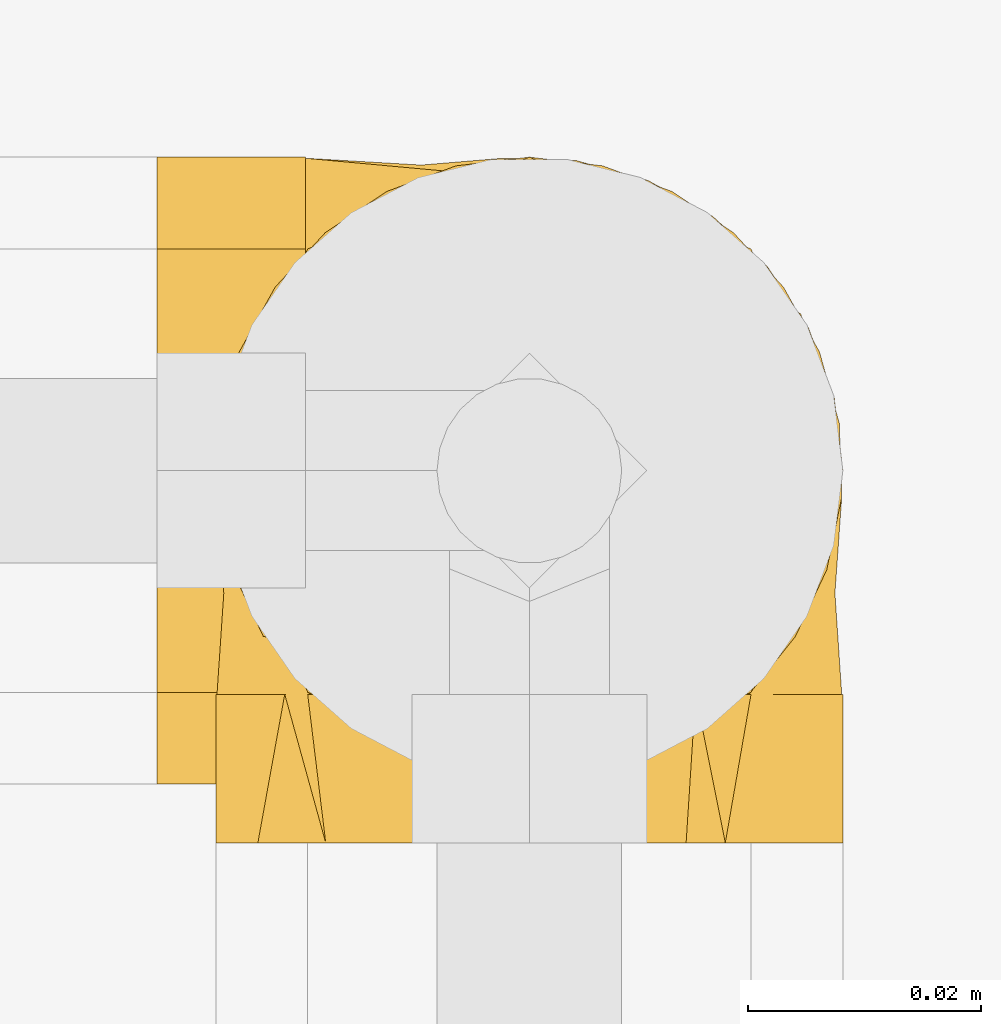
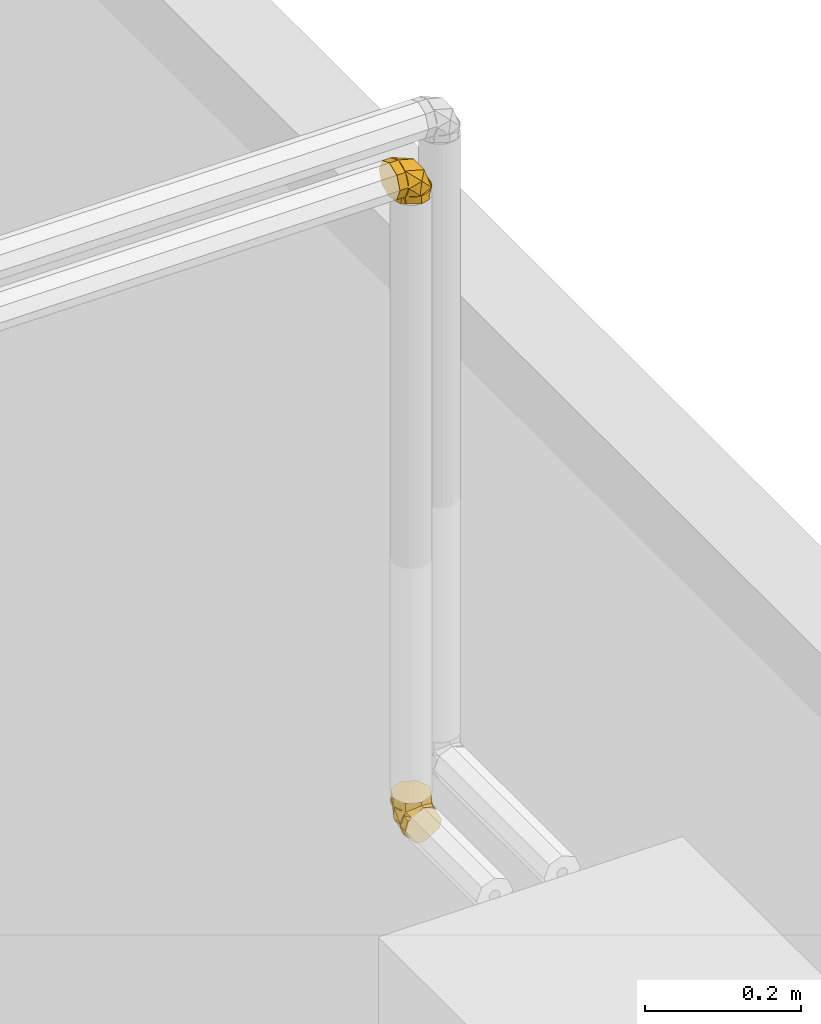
# One storey, part 359 of 652: 2 coverings.
"""IFC2X3 building model written with IfcOpenShell, lengths in millimetres."""

import ifcopenshell
import ifcopenshell.guid

model = None  # the IFC model being written
_history = None  # IfcOwnerHistory: only IFC2X3 demands one
_inside = {}  # id of a spatial element -> (the spatial element, [elements in it])
_under = {}  # id of a project, library or spatial element -> (it, [spatial elements below it])
_declared = {}  # id of a project -> (the project, [libraries it declares])
_typed = {}  # id of a type object -> (the type object, [elements of that type])
_made_of = {}  # id of a material, layer set ... -> (it, [elements and type objects made of it])


def new_model(schema):
    """Start an empty IFC model of exactly this schema.

    Asked for "IFC4X3", IfcOpenShell would pick the latest addendum, in which some entities
    have other attributes; the version numbers below select the first issue.
    IFC2X3 requires an IfcOwnerHistory on every rooted entity: one is made here for all.
    """
    global model, _history
    if schema == "IFC4X3":
        model = ifcopenshell.file(schema_version=(4, 3, 0, 0))
    else:
        model = ifcopenshell.file(schema=schema)
    _inside.clear()
    _under.clear()
    _declared.clear()
    _typed.clear()
    _made_of.clear()
    _history = None
    if model.schema == "IFC2X3":
        org = make("IfcOrganization", Name="unknown")
        user = make(
            "IfcPersonAndOrganization",
            ThePerson=make("IfcPerson", FamilyName="unknown"),
            TheOrganization=org,
        )
        app = make(
            "IfcApplication",
            ApplicationDeveloper=org,
            Version="unknown",
            ApplicationFullName="unknown",
            ApplicationIdentifier="unknown",
        )
        _history = make(
            "IfcOwnerHistory",
            OwningUser=user,
            OwningApplication=app,
            ChangeAction="ADDED",
            CreationDate=0,
        )
    return model


def make(cls, **values):
    """One entity of the class cls with the attributes given. An attribute that is None is left unset."""
    return model.create_entity(
        cls, **{name: value for name, value in values.items() if value is not None}
    )


def entity(cls, *values):
    """Any entity or typed value of the class cls, its attributes in the order of the schema. None: left unset."""
    e = model.create_entity(cls)
    for i, value in enumerate(values):
        if value is not None:
            e[i] = value
    return e


def rooted(cls, **values):
    """An entity with a GlobalId (a new one), such as an element, a storey or a relation."""
    return make(cls, GlobalId=ifcopenshell.guid.new(), OwnerHistory=_history, **values)


def si_unit(unit_type, name, prefix=None):
    """IfcSIUnit, for example si_unit("LENGTHUNIT", "METRE", prefix="MILLI")."""
    return make("IfcSIUnit", UnitType=unit_type, Prefix=prefix, Name=name)


def converted_unit(unit_type, name, factor, base, dimensions=None, offset=None):
    """IfcConversionBasedUnit, such as the inch: factor (a typed value) times the base unit."""
    return make(
        "IfcConversionBasedUnit"
        if offset is None
        else "IfcConversionBasedUnitWithOffset",
        ConversionOffset=offset,
        Dimensions=None
        if dimensions is None
        else entity("IfcDimensionalExponents", *dimensions),
        UnitType=unit_type,
        Name=name,
        ConversionFactor=make(
            "IfcMeasureWithUnit", ValueComponent=factor, UnitComponent=base
        ),
    )


def assignment(units):
    """IfcUnitAssignment: the units of a project."""
    return None if units is None else make("IfcUnitAssignment", Units=units)


def point(xyz):
    """IfcCartesianPoint."""
    return None if xyz is None else make("IfcCartesianPoint", Coordinates=xyz)


def direction(xyz):
    """IfcDirection."""
    return None if xyz is None else make("IfcDirection", DirectionRatios=xyz)


def frame(location, z_axis=None, x_axis=None):
    """IfcAxis2Placement3D, a coordinate frame: its origin and axes. An axis left out is left unset."""
    return make(
        "IfcAxis2Placement3D",
        Location=point(location),
        Axis=direction(z_axis),
        RefDirection=direction(x_axis),
    )


def origin():
    """The frame at (0, 0, 0) with its axes left unset."""
    return frame((0.0, 0.0, 0.0))


def place(relative_to, where):
    """IfcLocalPlacement: puts the frame where relative to a parent placement (None: the world)."""
    return make(
        "IfcLocalPlacement", PlacementRelTo=relative_to, RelativePlacement=where
    )


def context(
    kind, dimensions, precision=None, world=None, true_north=None, identifier=None
):
    """IfcGeometricRepresentationContext, for example the 3D "Model" context."""
    return make(
        "IfcGeometricRepresentationContext",
        ContextIdentifier=identifier,
        ContextType=kind,
        CoordinateSpaceDimension=dimensions,
        Precision=precision,
        WorldCoordinateSystem=world,
        TrueNorth=true_north,
    )


def subcontext(parent, identifier, kind, view, scale=None):
    """IfcGeometricRepresentationSubContext, for example "Body" below "Model"."""
    return make(
        "IfcGeometricRepresentationSubContext",
        ContextIdentifier=identifier,
        ContextType=kind,
        ParentContext=parent,
        TargetScale=scale,
        TargetView=view,
    )


def project(units=None, contexts=None):
    """IfcProject with its units and contexts."""
    return rooted(
        "IfcProject",
        Name="project",
        RepresentationContexts=contexts,
        UnitsInContext=assignment(units),
    )


def spatial(cls, under=None, at=None, **own):
    """A site, building, storey or space (cls), placed at a placement, below another one or the project."""
    s = rooted(cls, ObjectPlacement=at, **own)
    if under is not None:
        _under.setdefault(under.id(), (under, []))[1].append(s)
    return s


def faces_of(points, faces, orient=None, outer=None):
    """IfcFace entities. A face is a list of loops; a loop is a list of indices into points, from 0.

    orient and outer hold one flag for each loop. By default every Orientation is true, the
    first loop of a face is its IfcFaceOuterBound and the others are IfcFaceBound.
    """
    made = []
    for i, loops in enumerate(faces):
        bounds = []
        for j, loop in enumerate(loops):
            is_outer = j == 0 if outer is None else outer[i][j]
            bounds.append(
                make(
                    "IfcFaceOuterBound" if is_outer else "IfcFaceBound",
                    Bound=make("IfcPolyLoop", Polygon=[points[k] for k in loop]),
                    Orientation=True if orient is None else orient[i][j],
                )
            )
        made.append(make("IfcFace", Bounds=bounds))
    return made


def face_set(faces, orient=None, outer=None):
    """The faces of one IfcConnectedFaceSet. surface_model builds it on its shared points."""
    return ("IfcConnectedFaceSet", faces, orient, outer)


def surface_model(cls, points, shells):
    """IfcFaceBasedSurfaceModel or IfcShellBasedSurfaceModel (cls): surfaces that need not close."""
    shared = [point(p) for p in points]
    made = [make(c, CfsFaces=faces_of(shared, fs, o, b)) for c, fs, o, b in shells]
    if cls == "IfcFaceBasedSurfaceModel":
        return make(cls, FbsmFaces=made)
    return make(cls, SbsmBoundary=made)


def shape(context_of_items, identifier, shape_type, items):
    """IfcShapeRepresentation: the items that make up one representation, for example the "Body"."""
    return make(
        "IfcShapeRepresentation",
        ContextOfItems=context_of_items,
        RepresentationIdentifier=identifier,
        RepresentationType=shape_type,
        Items=items,
    )


def material(Name=None, Category=None):
    """IfcMaterial."""
    return make("IfcMaterial", Name=Name, Category=Category)


def made_of(thing, what):
    """Note that an element or type object is made of a material, layer set ...; save() writes the relation."""
    if what is not None:
        _made_of.setdefault(what.id(), (what, []))[1].append(thing)
    return thing


def type_object(cls, material=None, **own):
    """A type object (cls), such as IfcWallType, which elements share."""
    return made_of(rooted(cls, **own), material)


def element(
    cls,
    number,
    at=None,
    inside=None,
    cuts=None,
    type_object=None,
    material=None,
    context=None,
    identifier="Body",
    shape_type=None,
    held_by="IfcProductDefinitionShape",
    body=None,
    shapes=None,
    **own,
):
    """One element of the class cls, such as IfcWall. Its Tag is "e" and its number.

    at: its placement. inside: the storey or other place that contains it. cuts: it is an
    opening in that element (IfcRelVoidsElement). A single representation is given by context,
    identifier, shape_type and body (its items); several are given by shapes. held_by: the class
    of the entity that holds the representations. save() writes the other relations.
    """
    e = rooted(cls, Tag="e%d" % number, ObjectPlacement=at, **own)
    if body is not None:
        shapes = [shape(context, identifier, shape_type, body)]
    if shapes is not None:
        e.Representation = make(held_by, Representations=shapes)
    if inside is not None:
        _inside.setdefault(inside.id(), (inside, []))[1].append(e)
    if cuts is not None:
        rooted(
            "IfcRelVoidsElement", RelatingBuildingElement=cuts, RelatedOpeningElement=e
        )
    if type_object is not None:
        _typed.setdefault(type_object.id(), (type_object, []))[1].append(e)
    return made_of(e, material)


def aggregate(whole, parts):
    """IfcRelAggregates: a whole, such as a stair, and the parts it consists of."""
    return rooted("IfcRelAggregates", RelatingObject=whole, RelatedObjects=parts)


def save(model, path):
    """Write the relations noted so far, then the file.

    IfcRelAggregates (storeys below a building ...), IfcRelContainedInSpatialStructure (elements
    in a storey), IfcRelDefinesByType, IfcRelAssociatesMaterial and IfcRelDeclares: one each for
    every whole, place, type object, material and project.
    """
    for whole, parts in _under.values():
        aggregate(whole, parts)
    for where, things in _inside.values():
        rooted(
            "IfcRelContainedInSpatialStructure",
            RelatedElements=things,
            RelatingStructure=where,
        )
    for kind, things in _typed.values():
        rooted("IfcRelDefinesByType", RelatedObjects=things, RelatingType=kind)
    for what, things in _made_of.values():
        rooted("IfcRelAssociatesMaterial", RelatedObjects=things, RelatingMaterial=what)
    for by, libraries in _declared.values():
        rooted("IfcRelDeclares", RelatingContext=by, RelatedDefinitions=libraries)
    model.write(path)


model = new_model("IFC2X3")

# Units and contexts
model_context = context("Model", 3, precision=0.01, world=frame((0.0, 0.0, 308426.39999999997)), true_north=direction((6.123233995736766e-17, 1.0)))
plan_context = context("Plan", 3, precision=0.01, world=frame((0.0, 0.0, 308426.39999999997)), true_north=direction((6.123233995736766e-17, 1.0)))
body_context = subcontext(model_context, "Body", "Model", "MODEL_VIEW")
ifc_project = project(units=[si_unit("LENGTHUNIT", "METRE", prefix="MILLI"), si_unit("AREAUNIT", "SQUARE_METRE"), si_unit("VOLUMEUNIT", "CUBIC_METRE"), converted_unit("PLANEANGLEUNIT", "DEGREE", entity("IfcPlaneAngleMeasure", 0.017453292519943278), si_unit("PLANEANGLEUNIT", "RADIAN"), dimensions=[0, 0, 0, 0, 0, 0, 0])], contexts=[model_context, plan_context])

# Site, building, storey
site_placement = place(None, origin())
site = spatial("IfcSite", under=ifc_project, at=site_placement, Name="Default", CompositionType="ELEMENT")
building_placement = place(site_placement, origin())
building = spatial("IfcBuilding", under=site, at=building_placement, CompositionType="ELEMENT")
storey_placement = place(building_placement, frame((0.0, 0.0, 1730.6999999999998)))
storey = spatial("IfcBuildingStorey", under=building, at=storey_placement, Name="EG_Produktion_FFB", CompositionType="ELEMENT", Elevation=1730.6999999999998)

# Coverings
ifc_material = material(Name="Dämmung - Armaflex-Schlauch")
covering_type = type_object("IfcCoveringType", Name="Rohrdämmung außen:Armaflex-Schlauch", PredefinedType="INSULATION")
covering_1_placement = place(storey_placement, frame((66193.50701735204, 34921.46567746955, 3728.532772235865)))
element("IfcCovering", 1, at=covering_1_placement, inside=storey, type_object=covering_type, material=ifc_material, Name="Rohrdämmung außen:Armaflex-Schlauch", ObjectType="Rohrdämmung außen:Armaflex-Schlauch", PredefinedType="INSULATION", context=body_context, shape_type="SurfaceModel", body=[
    surface_model("IfcFaceBasedSurfaceModel", [(12.766250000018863, 9.65642195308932, -47.75027223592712), (12.766250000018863, 5.678961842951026, -42.79223424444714), (12.766250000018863, 2.973980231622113, -37.040242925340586), (12.766250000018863, 1.6920879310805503, -30.814563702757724), (12.766250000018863, 1.9046594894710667, -24.461836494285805), (12.766250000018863, 3.5998591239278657, -18.335775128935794), (12.766250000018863, 6.683299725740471, -12.77747289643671), (12.766250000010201, 10.983298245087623, -8.096410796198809), (12.766250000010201, 16.26043484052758, -4.553225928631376), (12.766250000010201, 22.220883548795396, -2.3451994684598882), (12.766250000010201, 28.532772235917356, -1.595272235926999), (12.766250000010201, 34.84466092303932, -2.3451994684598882), (12.766250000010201, 40.80510963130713, -4.553225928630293), (12.766250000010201, 46.08224622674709, -8.096410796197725), (12.766250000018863, 50.38224474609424, -12.77747289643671), (12.766250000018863, 53.46568534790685, -18.33577512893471), (12.766250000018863, 55.16088498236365, -24.461836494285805), (12.766250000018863, 55.37345654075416, -30.814563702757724), (12.766250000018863, 54.0915642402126, -37.040242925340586), (12.766250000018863, 51.38658262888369, -42.79223424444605), (12.766250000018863, 47.40912251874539, -47.75027223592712), (17.72428799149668, 51.38658262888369, -47.75027223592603), (23.47627931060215, 54.0915642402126, -47.75027223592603), (29.70195853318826, 55.37345654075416, -47.75027223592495), (36.05468574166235, 55.16088498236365, -47.75027223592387), (42.18074710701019, 53.46568534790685, -47.75027223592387), (47.73904933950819, 50.38224474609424, -47.750272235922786), (52.42011143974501, 46.08224622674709, -47.750272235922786), (55.96329630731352, 40.80510963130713, -47.750272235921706), (58.17132276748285, 34.84466092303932, -47.750272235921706), (58.921250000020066, 28.532772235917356, -47.750272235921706), (58.17132276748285, 22.220883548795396, -47.750272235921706), (55.96329630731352, 16.26043484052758, -47.750272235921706), (52.42011143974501, 10.983298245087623, -47.750272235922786), (47.73904933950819, 6.683299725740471, -47.750272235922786), (42.18074710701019, 3.5998591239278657, -47.75027223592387), (36.05468574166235, 1.9046594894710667, -47.75027223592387), (29.70195853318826, 1.6920879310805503, -47.75027223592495), (23.47627931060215, 2.973980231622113, -47.75027223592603), (17.72428799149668, 5.678961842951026, -47.75027223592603), (22.70703294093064, 2.2770349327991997, -39.06942689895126), (35.84576585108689, 28.533571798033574, -7.778894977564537), (12.76810471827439, 6.33725221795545, -19.455507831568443), (33.56683518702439, 3.6002099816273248, -26.9509805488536), (43.184852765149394, 14.2856042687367, -18.674741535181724), (48.37523362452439, 28.533571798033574, -29.486290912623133), (41.05940110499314, 6.33725221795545, -47.750292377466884), (43.184852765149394, 42.779213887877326, -18.674741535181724), (33.56683518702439, 53.4646081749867, -26.9509805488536), (22.70703294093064, 54.79010866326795, -39.06942689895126), (41.05940110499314, 50.72756593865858, -47.750292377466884), (12.76810471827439, 50.72756593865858, -19.455507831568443), (0.0, 28.532772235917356, -1.5952722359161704), (0.0, 33.2946944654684, -3.567725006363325), (0.0, 38.05661669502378, -5.540177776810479), (0.0, 42.81853892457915, -7.51263054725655), (0.0, 47.5804611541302, -9.485083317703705), (0.0, 49.552913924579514, -14.247005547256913), (0.0, 51.5253666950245, -19.008927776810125), (0.0, 53.49781946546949, -23.770850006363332), (0.0, 55.47027223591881, -28.532772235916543), (0.0, 53.49781946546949, -33.29469446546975), (0.0, 51.5253666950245, -38.05661669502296), (0.0, 49.552913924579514, -42.818538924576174), (0.0, 47.5804611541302, -47.58046115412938), (0.0, 42.81853892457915, -49.552913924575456), (0.0, 38.05661669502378, -51.52536669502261), (0.0, 33.2946944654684, -53.49781946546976), (0.0, 28.532772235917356, -55.470272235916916), (0.0, 23.770850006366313, -53.49781946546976), (0.0, 19.008927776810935, -51.52536669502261), (0.0, 14.247005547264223, -49.552913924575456), (0.0, 9.485083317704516, -47.58046115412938), (0.0, 7.512630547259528, -42.818538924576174), (0.0, 5.540177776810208, -38.05661669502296), (0.0, 3.567725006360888, -33.29469446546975), (0.0, 1.5952722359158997, -28.532772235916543), (0.0, 3.5677250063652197, -23.770850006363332), (0.0, 5.540177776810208, -19.008927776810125), (0.0, 7.512630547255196, -14.247005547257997), (0.0, 9.485083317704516, -9.485083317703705), (0.0, 14.24700554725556, -7.51263054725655), (0.0, 19.008927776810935, -5.540177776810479), (0.0, 23.770850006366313, -3.567725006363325), (12.766250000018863, 28.532772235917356, -1.5952722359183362), (12.766250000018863, 23.770850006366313, -3.567725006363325), (12.766250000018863, 19.008927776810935, -5.540177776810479), (12.766250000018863, 14.24700554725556, -7.512630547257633), (12.766250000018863, 9.485083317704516, -9.48508331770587), (12.766250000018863, 7.095738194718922, -15.25347271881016), (12.766250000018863, 4.706393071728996, -21.021862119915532), (12.766250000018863, 1.5952722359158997, -28.53277223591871), (12.766250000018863, 3.567725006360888, -33.29469446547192), (12.766250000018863, 5.540177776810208, -38.05661669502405), (12.766250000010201, 7.512630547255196, -42.818538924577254), (12.766250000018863, 9.485083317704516, -47.58046115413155), (12.766250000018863, 15.253472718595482, -49.96980627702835), (12.766250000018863, 21.021862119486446, -52.35915139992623), (12.766250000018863, 28.532772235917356, -55.47027223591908), (12.766250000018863, 33.29469446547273, -53.49781946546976), (12.766250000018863, 38.05661669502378, -51.52536669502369), (12.766250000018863, 42.81853892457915, -49.552913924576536), (12.766250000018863, 47.5804611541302, -47.58046115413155), (12.766250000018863, 49.96980627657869, -41.81207175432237), (12.766250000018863, 52.35915139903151, -36.04368235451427), (12.766250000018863, 55.47027223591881, -28.53277223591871), (12.766250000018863, 53.49781946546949, -23.7708500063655), (12.766250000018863, 51.5253666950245, -19.008927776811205), (12.766250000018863, 49.552913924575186, -14.247005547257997), (12.766250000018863, 47.5804611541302, -9.48508331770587), (12.766250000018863, 41.81207177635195, -7.095738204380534), (12.766250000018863, 36.0436823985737, -4.706393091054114), (58.92125000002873, 28.532772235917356, -60.51652223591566), (55.55406250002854, 22.700632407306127, -60.51652223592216), (52.186875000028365, 16.868492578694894, -60.51652223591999), (48.81968750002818, 11.036352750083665, -60.516522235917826), (45.452500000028, 5.204212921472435, -60.51652223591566), (38.718125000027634, 3.3997425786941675, -60.51652223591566), (31.98375000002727, 1.5952722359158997, -60.51652223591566), (26.151610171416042, 4.962459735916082, -60.51652223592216), (20.319470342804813, 8.329647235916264, -60.51652223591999), (14.487330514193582, 11.696834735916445, -60.516522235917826), (8.655190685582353, 15.064022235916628, -60.51652223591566), (6.850720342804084, 21.79839723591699, -60.51652223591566), (5.046250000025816, 28.532772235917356, -60.51652223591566), (8.41343750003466, 34.36491206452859, -60.51652223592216), (11.78062500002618, 40.197051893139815, -60.51652223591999), (15.147812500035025, 46.02919172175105, -60.516522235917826), (18.515000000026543, 51.86133155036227, -60.51652223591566), (25.24937500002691, 53.66580189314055, -60.51652223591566), (31.98375000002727, 55.47027223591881, -60.51652223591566), (37.815889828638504, 52.10308473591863, -60.51652223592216), (43.64802965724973, 48.73589723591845, -60.51652223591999), (49.480169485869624, 45.368709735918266, -60.516522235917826), (55.312309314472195, 42.00152223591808, -60.51652223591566), (57.11677965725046, 35.26714723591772, -60.51652223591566), (58.92125000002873, 28.532772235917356, -47.75027223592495), (56.94879722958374, 33.29469446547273, -47.75027223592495), (54.97634445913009, 38.05661669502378, -47.75027223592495), (53.0038916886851, 42.81853892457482, -47.75027223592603), (51.03143891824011, 47.5804611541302, -47.75027223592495), (46.26951668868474, 49.552913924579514, -47.75027223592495), (41.50759445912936, 51.5253666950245, -47.75027223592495), (36.745672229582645, 53.49781946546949, -47.75027223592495), (31.98375000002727, 55.47027223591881, -47.75027223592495), (27.22182777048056, 53.49781946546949, -47.75027223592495), (22.459905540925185, 51.5253666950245, -47.75027223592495), (17.697983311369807, 49.552913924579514, -47.75027223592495), (12.936061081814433, 47.5804611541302, -47.75027223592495), (10.963608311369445, 42.81853892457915, -47.75027223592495), (8.991155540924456, 38.05661669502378, -47.75027223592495), (7.018702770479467, 33.2946944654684, -47.75027223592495), (5.046250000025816, 28.532772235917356, -47.75027223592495), (7.018702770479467, 23.770850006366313, -47.75027223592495), (8.991155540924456, 19.008927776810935, -47.75027223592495), (10.963608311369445, 14.24700554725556, -47.75027223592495), (12.936061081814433, 9.485083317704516, -47.75027223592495), (17.697983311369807, 7.512630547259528, -47.75027223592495), (22.459905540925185, 5.540177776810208, -47.75027223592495), (27.221827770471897, 3.5677250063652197, -47.75027223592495), (31.98375000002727, 1.5952722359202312, -47.75027223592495), (36.745672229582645, 3.567725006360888, -47.75027223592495), (41.50759445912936, 5.540177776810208, -47.75027223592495), (46.26951668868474, 7.512630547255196, -47.75027223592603), (51.03143891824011, 9.485083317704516, -47.75027223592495), (53.0038916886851, 14.24700554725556, -47.75027223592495), (54.97634445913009, 19.008927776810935, -47.75027223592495), (56.94879722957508, 23.770850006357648, -47.75027223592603)], [face_set([[[0, 1, 2, 3, 4, 5, 6, 7, 8, 9, 10, 11, 12, 13, 14, 15, 16, 17, 18, 19]], [[20, 21, 22, 23, 24, 25, 26, 27, 28, 29, 30, 31, 32, 33, 34, 35, 36, 37, 38, 39]], [[0, 40, 3]], [[10, 7, 41]], [[42, 3, 43, 7]], [[40, 43, 3]], [[37, 40, 0]], [[7, 43, 44]], [[45, 41, 44]], [[7, 44, 41]], [[33, 30, 45]], [[45, 44, 33]], [[43, 33, 44]], [[43, 37, 46]], [[37, 43, 40]], [[46, 33, 43]], [[13, 10, 41]], [[27, 47, 45]], [[45, 30, 27]], [[48, 47, 27]], [[49, 48, 23]], [[48, 50, 23]], [[45, 47, 41]], [[20, 49, 23]], [[47, 48, 13]], [[17, 49, 20]], [[41, 47, 13]], [[48, 17, 51, 13]], [[48, 27, 50]], [[17, 48, 49]]]), face_set([[[52, 53, 54, 55, 56, 57, 58, 59, 60, 61, 62, 63, 64, 65, 66, 67, 68, 69, 70, 71, 72, 73, 74, 75, 76, 77, 78, 79, 80, 81, 82, 83]], [[84, 85, 86, 87, 88, 89, 90, 91, 92, 93, 94, 95, 96, 97, 98, 99, 100, 101, 102, 103, 104, 105, 106, 107, 108, 109, 110, 111]], [[111, 110, 109, 56, 55, 54, 53, 52, 84]], [[56, 109, 108, 107, 106, 105, 60, 59, 58, 57]], [[104, 103, 102, 64, 63, 62, 61, 60, 105]], [[64, 102, 101, 100, 99, 98, 68, 67, 66, 65]], [[97, 96, 95, 72, 71, 70, 69, 68, 98]], [[72, 95, 94, 93, 92, 91, 76, 75, 74, 73]], [[90, 89, 88, 80, 79, 78, 77, 76, 91]], [[80, 88, 87, 86, 85, 84, 52, 83, 82, 81]]]), face_set([[[112, 113, 114, 115, 116, 117, 118, 119, 120, 121, 122, 123, 124, 125, 126, 127, 128, 129, 130, 131, 132, 133, 134, 135]], [[136, 137, 138, 139, 140, 141, 142, 143, 144, 145, 146, 147, 148, 149, 150, 151, 152, 153, 154, 155, 156, 157, 158, 159, 160, 161, 162, 163, 164, 165, 166, 167]], [[155, 121, 156]], [[118, 159, 119]], [[159, 158, 119]], [[123, 154, 153]], [[153, 152, 124]], [[121, 155, 122]], [[120, 158, 157]], [[118, 160, 159]], [[158, 120, 119]], [[124, 123, 153]], [[157, 156, 121]], [[155, 154, 122]], [[123, 122, 154]], [[120, 157, 121]], [[163, 115, 164]], [[112, 167, 113]], [[167, 166, 113]], [[117, 162, 161]], [[161, 160, 118]], [[115, 163, 116]], [[114, 166, 165]], [[112, 136, 167]], [[166, 114, 113]], [[118, 117, 161]], [[165, 164, 115]], [[163, 162, 116]], [[117, 116, 162]], [[114, 165, 115]], [[139, 133, 140]], [[130, 143, 131]], [[143, 142, 131]], [[135, 138, 137]], [[137, 136, 112]], [[133, 139, 134]], [[132, 142, 141]], [[130, 144, 143]], [[142, 132, 131]], [[112, 135, 137]], [[141, 140, 133]], [[139, 138, 134]], [[135, 134, 138]], [[132, 141, 133]], [[147, 127, 148]], [[124, 151, 125]], [[151, 150, 125]], [[129, 146, 145]], [[145, 144, 130]], [[127, 147, 128]], [[126, 150, 149]], [[124, 152, 151]], [[150, 126, 125]], [[130, 129, 145]], [[149, 148, 127]], [[147, 146, 128]], [[129, 128, 146]], [[126, 149, 127]]])]),
])
covering_2_placement = place(storey_placement, frame((66196.95799511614, 34918.014699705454, 2671.4672277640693)))
element("IfcCovering", 2, at=covering_2_placement, inside=storey, type_object=covering_type, material=ifc_material, Name="Rohrdämmung außen:Armaflex-Schlauch", ObjectType="Rohrdämmung außen:Armaflex-Schlauch", PredefinedType="INSULATION", context=body_context, shape_type="SurfaceModel", body=[
    surface_model("IfcFaceBasedSurfaceModel", [(47.409122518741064, 12.766250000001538, 47.750272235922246), (51.38658262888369, 17.72428799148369, 47.750272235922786), (54.0915642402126, 23.476279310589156, 47.750272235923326), (55.37345654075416, 29.701958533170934, 47.75027223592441), (55.16088498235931, 36.05468574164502, 47.75027223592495), (53.465685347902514, 42.18074710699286, 47.75027223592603), (50.38224474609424, 47.73904933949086, 47.75027223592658), (46.08224622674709, 52.42011143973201, 47.75027223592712), (40.8051096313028, 55.9632963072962, 47.75027223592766), (34.844660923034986, 58.17132276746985, 47.75027223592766), (28.532772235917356, 58.92125000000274, 47.75027223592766), (22.220883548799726, 58.17132276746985, 47.75027223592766), (16.26043484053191, 55.9632963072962, 47.75027223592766), (10.983298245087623, 52.42011143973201, 47.75027223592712), (6.683299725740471, 47.73904933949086, 47.75027223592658), (3.599859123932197, 42.18074710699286, 47.75027223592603), (1.904659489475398, 36.05468574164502, 47.75027223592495), (1.6920879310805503, 29.701958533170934, 47.75027223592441), (2.973980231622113, 23.476279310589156, 47.750272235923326), (5.678961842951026, 17.72428799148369, 47.750272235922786), (9.65642195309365, 12.766250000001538, 47.750272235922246), (5.678961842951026, 12.766250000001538, 42.79223424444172), (2.973980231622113, 12.766250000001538, 37.04024292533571), (1.6920879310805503, 12.766250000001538, 30.81456370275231), (1.904659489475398, 12.766250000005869, 24.46183649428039), (3.599859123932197, 12.766250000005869, 18.33577512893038), (6.683299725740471, 12.766250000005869, 12.777472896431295), (10.983298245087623, 12.766250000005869, 8.096410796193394), (16.26043484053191, 12.766250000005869, 4.553225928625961), (22.220883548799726, 12.766250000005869, 2.3451994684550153), (28.532772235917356, 12.766250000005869, 1.5952722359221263), (34.844660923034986, 12.766250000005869, 2.3451994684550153), (40.8051096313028, 12.766250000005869, 4.553225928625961), (46.08224622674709, 12.766250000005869, 8.096410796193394), (50.38224474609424, 12.766250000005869, 12.777472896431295), (53.465685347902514, 12.766250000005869, 18.33577512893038), (55.16088498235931, 12.766250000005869, 24.46183649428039), (55.37345654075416, 12.766250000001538, 30.81456370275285), (54.0915642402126, 12.766250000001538, 37.04024292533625), (51.38658262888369, 12.766250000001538, 42.79223424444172), (54.788770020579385, 21.447983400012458, 37.80740068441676), (28.53455859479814, 52.736771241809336, 24.672737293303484), (53.46792041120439, 33.565848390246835, 26.9510865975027), (50.728552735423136, 41.06073974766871, 47.750398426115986), (28.53455859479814, 31.02879394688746, 12.139781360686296), (42.78020068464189, 41.84208740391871, 17.33248765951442), (50.728552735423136, 12.767117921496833, 19.45561388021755), (14.284265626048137, 41.84208740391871, 17.33248765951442), (3.6011967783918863, 33.565848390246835, 26.9510865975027), (2.2756962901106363, 21.447983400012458, 37.80740068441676), (6.335913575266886, 12.767117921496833, 19.45561388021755), (6.335913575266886, 41.06073974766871, 47.750398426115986), (28.532772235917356, 58.92125000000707, 60.5165222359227), (23.77085000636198, 56.948797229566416, 60.51652223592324), (19.008927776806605, 54.976344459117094, 60.51652223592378), (14.247005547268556, 53.00389168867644, 60.51652223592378), (9.485083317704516, 51.03143891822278, 60.51652223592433), (7.512630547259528, 46.26951668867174, 60.51652223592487), (5.540177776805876, 41.50759445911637, 60.51652223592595), (3.567725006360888, 36.74567222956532, 60.51652223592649), (1.5952722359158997, 31.983750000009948, 60.516522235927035), (3.567725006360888, 27.2218277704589, 60.516522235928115), (5.540177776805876, 22.459905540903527, 60.516522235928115), (7.512630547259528, 17.697983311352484, 60.516522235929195), (9.485083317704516, 12.936061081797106, 60.51652223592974), (14.247005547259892, 10.963608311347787, 60.51652223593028), (19.008927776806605, 8.991155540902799, 60.51652223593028), (23.77085000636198, 7.018702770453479, 60.51652223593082), (28.532772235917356, 5.046250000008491, 60.51652223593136), (33.29469446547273, 7.01870277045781, 60.51652223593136), (38.056616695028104, 8.991155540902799, 60.51652223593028), (42.818538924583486, 10.963608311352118, 60.51652223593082), (47.5804611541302, 12.936061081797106, 60.51652223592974), (49.552913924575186, 17.69798331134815, 60.516522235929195), (51.525366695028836, 22.459905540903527, 60.516522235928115), (53.497819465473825, 27.22182777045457, 60.516522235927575), (55.47027223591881, 31.983750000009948, 60.516522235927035), (53.497819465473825, 36.74567222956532, 60.51652223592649), (51.525366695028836, 41.50759445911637, 60.51652223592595), (49.552913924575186, 46.26951668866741, 60.51652223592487), (47.5804611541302, 51.03143891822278, 60.51652223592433), (42.818538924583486, 53.003891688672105, 60.51652223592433), (38.056616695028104, 54.976344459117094, 60.51652223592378), (33.29469446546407, 56.94879722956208, 60.5165222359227), (28.532772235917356, 58.92125000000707, 47.75027223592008), (33.29469446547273, 56.948797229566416, 47.750272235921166), (38.056616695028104, 54.976344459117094, 47.750272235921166), (42.81853892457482, 53.00389168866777, 47.750272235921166), (47.5804611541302, 51.03143891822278, 47.750272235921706), (49.96980627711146, 45.26304951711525, 47.750272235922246), (52.35915140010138, 39.49466011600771, 47.750272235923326), (55.47027223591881, 31.983750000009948, 47.75027223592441), (53.497819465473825, 27.22182777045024, 47.75027223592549), (51.525366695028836, 22.459905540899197, 47.75027223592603), (49.552913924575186, 17.69798331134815, 47.75027223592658), (47.5804611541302, 12.936061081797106, 47.75027223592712), (41.81207175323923, 10.546715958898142, 47.7502722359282), (36.04368235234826, 8.157370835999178, 47.7502722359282), (28.532772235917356, 5.046250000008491, 47.75027223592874), (23.77085000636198, 7.018702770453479, 47.75027223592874), (19.008927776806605, 8.991155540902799, 47.7502722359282), (14.247005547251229, 10.963608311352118, 47.75027223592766), (9.485083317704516, 12.936061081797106, 47.75027223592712), (7.095738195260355, 18.704450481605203, 47.75027223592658), (4.706393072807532, 24.472839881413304, 47.75027223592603), (1.5952722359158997, 31.983750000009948, 47.75027223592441), (3.567725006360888, 36.74567222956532, 47.75027223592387), (5.540177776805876, 41.50759445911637, 47.750272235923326), (7.512630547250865, 46.26951668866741, 47.750272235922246), (9.485083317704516, 51.03143891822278, 47.750272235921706), (15.253472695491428, 53.4207840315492, 47.750272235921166), (21.021862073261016, 55.810129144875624, 47.750272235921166), (28.532772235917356, 0.0, 1.5952722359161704), (34.36491206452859, 0.0, 4.962459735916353), (40.197051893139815, 0.0, 8.329647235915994), (46.02919172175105, 0.0, 11.696834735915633), (51.86133155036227, 0.0, 15.064022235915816), (53.66580189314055, 0.0, 21.798397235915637), (55.47027223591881, 0.0, 28.532772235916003), (52.10308473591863, 0.0, 34.36491206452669), (48.73589723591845, 0.0, 40.19705189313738), (45.368709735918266, 0.0, 46.02919172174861), (42.00152223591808, 0.0, 51.861331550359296), (35.26714723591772, 0.0, 53.66580189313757), (28.532772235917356, 0.0, 55.470272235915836), (22.700632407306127, 0.0, 52.10308473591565), (16.868492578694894, 0.0, 48.73589723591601), (11.036352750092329, 0.0, 45.36870973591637), (5.204212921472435, 0.0, 42.00152223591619), (3.3997425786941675, 0.0, 35.26714723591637), (1.5952722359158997, 0.0, 28.532772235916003), (4.962459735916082, 0.0, 22.700632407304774), (8.329647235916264, 0.0, 16.868492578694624), (11.696834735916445, 0.0, 11.036352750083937), (15.064022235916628, 0.0, 5.204212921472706), (21.79839723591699, 0.0, 3.3997425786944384), (28.532772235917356, 12.766250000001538, 1.5952722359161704), (23.77085000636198, 12.766250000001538, 3.567725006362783), (19.008927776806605, 12.766250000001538, 5.540177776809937), (14.247005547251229, 12.766250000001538, 7.512630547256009), (9.485083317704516, 12.766250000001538, 9.485083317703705), (7.512630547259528, 12.766250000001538, 14.247005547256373), (5.540177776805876, 12.766250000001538, 19.008927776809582), (3.567725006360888, 12.766250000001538, 23.770850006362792), (1.5952722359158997, 12.766250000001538, 28.532772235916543), (3.567725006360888, 12.766250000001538, 33.29469446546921), (5.540177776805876, 12.766250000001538, 38.05661669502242), (7.512630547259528, 12.766250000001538, 42.818538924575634), (9.485083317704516, 12.766250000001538, 47.58046115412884), (14.247005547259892, 12.766250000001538, 49.552913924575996), (19.008927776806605, 12.766250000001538, 51.525366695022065), (23.77085000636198, 12.766250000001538, 53.49781946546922), (28.532772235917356, 12.766250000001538, 55.470272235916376), (33.29469446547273, 12.766250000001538, 53.49781946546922), (38.056616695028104, 12.766250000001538, 51.525366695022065), (42.818538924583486, 12.766250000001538, 49.552913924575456), (47.5804611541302, 12.766250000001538, 47.58046115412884), (49.552913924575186, 12.766250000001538, 42.818538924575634), (51.525366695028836, 12.766250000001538, 38.05661669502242), (53.497819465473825, 12.766250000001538, 33.29469446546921), (55.47027223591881, 12.766250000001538, 28.532772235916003), (53.497819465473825, 12.766250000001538, 23.770850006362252), (51.525366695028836, 12.766250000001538, 19.008927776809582), (49.552913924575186, 12.766250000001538, 14.247005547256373), (47.5804611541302, 12.766250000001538, 9.485083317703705), (42.818538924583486, 12.766250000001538, 7.51263054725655), (38.056616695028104, 12.766250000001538, 5.540177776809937), (33.29469446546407, 12.766250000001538, 3.567725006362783)], [face_set([[[0, 1, 2, 3, 4, 5, 6, 7, 8, 9, 10, 11, 12, 13, 14, 15, 16, 17, 18, 19]], [[20, 21, 22, 23, 24, 25, 26, 27, 28, 29, 30, 31, 32, 33, 34, 35, 36, 37, 38, 39]], [[0, 40, 3]], [[10, 7, 41]], [[37, 42, 40]], [[42, 7, 43, 3]], [[37, 40, 0]], [[3, 40, 42]], [[44, 41, 45]], [[7, 45, 41]], [[33, 30, 44]], [[44, 45, 33]], [[42, 33, 45]], [[42, 37, 46]], [[7, 42, 45]], [[46, 33, 42]], [[13, 10, 41]], [[27, 47, 44]], [[44, 30, 27]], [[48, 47, 27]], [[49, 48, 23]], [[48, 50, 23]], [[44, 47, 41]], [[20, 49, 23]], [[47, 48, 13]], [[17, 49, 20]], [[41, 47, 13]], [[48, 17, 51]], [[48, 27, 50]], [[17, 48, 49]], [[51, 13, 48]]]), face_set([[[52, 53, 54, 55, 56, 57, 58, 59, 60, 61, 62, 63, 64, 65, 66, 67, 68, 69, 70, 71, 72, 73, 74, 75, 76, 77, 78, 79, 80, 81, 82, 83]], [[84, 85, 86, 87, 88, 89, 90, 91, 92, 93, 94, 95, 96, 97, 98, 99, 100, 101, 102, 103, 104, 105, 106, 107, 108, 109, 110, 111]], [[111, 110, 109, 56, 55, 54, 53, 52, 84]], [[56, 109, 108, 107, 106, 105, 60, 59, 58, 57]], [[104, 103, 102, 64, 63, 62, 61, 60, 105]], [[64, 102, 101, 100, 99, 98, 68, 67, 66, 65]], [[97, 96, 95, 72, 71, 70, 69, 68, 98]], [[72, 95, 94, 93, 92, 91, 76, 75, 74, 73]], [[90, 89, 88, 80, 79, 78, 77, 76, 91]], [[80, 88, 87, 86, 85, 84, 52, 83, 82, 81]]]), face_set([[[112, 113, 114, 115, 116, 117, 118, 119, 120, 121, 122, 123, 124, 125, 126, 127, 128, 129, 130, 131, 132, 133, 134, 135]], [[136, 137, 138, 139, 140, 141, 142, 143, 144, 145, 146, 147, 148, 149, 150, 151, 152, 153, 154, 155, 156, 157, 158, 159, 160, 161, 162, 163, 164, 165, 166, 167]], [[155, 121, 156]], [[118, 159, 119]], [[159, 158, 119]], [[123, 154, 153]], [[153, 152, 124]], [[121, 155, 122]], [[120, 158, 157]], [[118, 160, 159]], [[158, 120, 119]], [[124, 123, 153]], [[157, 156, 121]], [[155, 154, 122]], [[123, 122, 154]], [[120, 157, 121]], [[163, 115, 164]], [[112, 167, 113]], [[167, 166, 113]], [[117, 162, 161]], [[161, 160, 118]], [[115, 163, 116]], [[114, 166, 165]], [[112, 136, 167]], [[166, 114, 113]], [[118, 117, 161]], [[165, 164, 115]], [[163, 162, 116]], [[117, 116, 162]], [[114, 165, 115]], [[139, 133, 140]], [[130, 143, 131]], [[143, 142, 131]], [[135, 138, 137]], [[137, 136, 112]], [[133, 139, 134]], [[132, 142, 141]], [[130, 144, 143]], [[142, 132, 131]], [[112, 135, 137]], [[141, 140, 133]], [[139, 138, 134]], [[135, 134, 138]], [[132, 141, 133]], [[147, 127, 148]], [[124, 151, 125]], [[151, 150, 125]], [[129, 146, 145]], [[145, 144, 130]], [[127, 147, 128]], [[126, 150, 149]], [[124, 152, 151]], [[150, 126, 125]], [[130, 129, 145]], [[149, 148, 127]], [[147, 146, 128]], [[129, 128, 146]], [[126, 149, 127]]])]),
])

save(model, "model.ifc")
